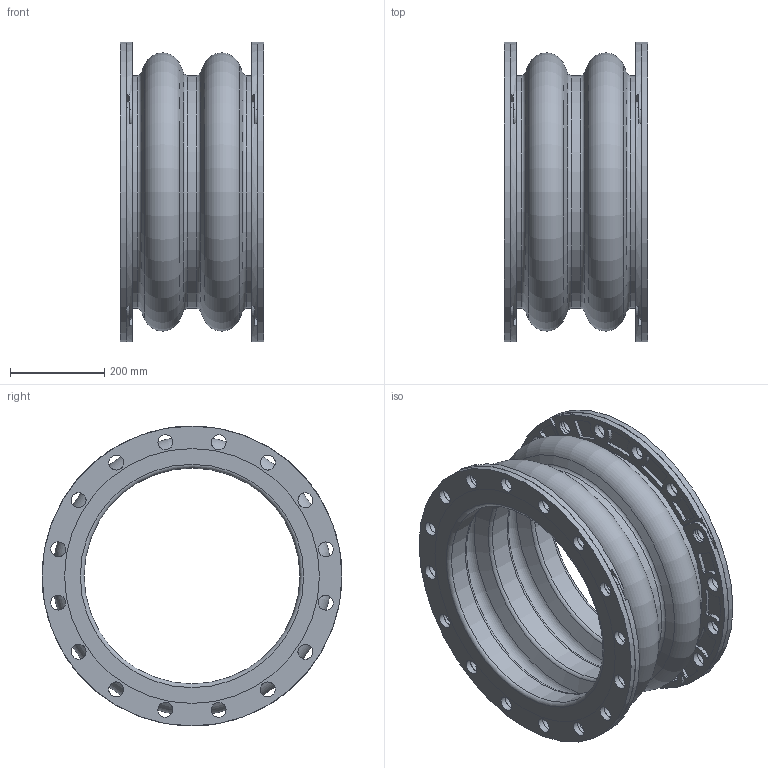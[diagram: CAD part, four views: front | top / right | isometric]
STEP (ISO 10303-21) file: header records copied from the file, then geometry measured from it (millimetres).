
FILE_DESCRIPTION(/* description */ (''),/* implementation_level */ '2;1');
FILE_NAME(/* name */ 'C:\001_Work\Designs\Mercer2014\702 18IDx12FF.stp',/* time_stamp */ '2016-04-10T14:40:24-04:00',/* author */ ('rramoutar'),/* organization */ ('Mason Industries Inc.'),/* preprocessor_version */ 'ST-DEVELOPER v15.6',/* originating_system */ 'Autodesk Inventor 2015',/* authorisation */ '');
FILE_SCHEMA (('CONFIG_CONTROL_DESIGN'));
Length unit declared in the file: inch
Products named in the file (1): 702 18IDx12FF
Bounding box: 304.8 x 635 x 635 mm (x, y, z)
Volume: 17017056 mm3; surface area: 2520205.3 mm2
Topology: 9 solids, 9 shells, 508 faces, 1346 edges, 892 vertices
Faces by surface type: cylinder 368, plane 118, torus 14, cone 8
Full cylindrical faces by diameter (mm): 31.75 x72, 457.2 x3, 493.712 x3, 635 x2
Entity records: 16476 total; most frequent: DIRECTION 3042, CARTESIAN_POINT 2629, ORIENTED_EDGE 2472, AXIS2_PLACEMENT_3D 1297, EDGE_CURVE 1236, VERTEX_POINT 884, EDGE_LOOP 792, CIRCLE 788
